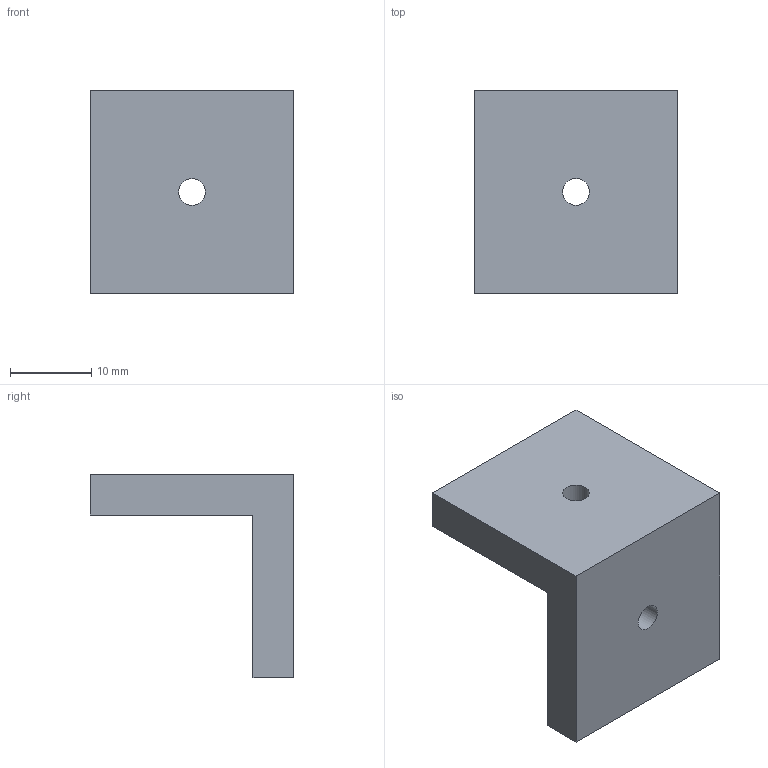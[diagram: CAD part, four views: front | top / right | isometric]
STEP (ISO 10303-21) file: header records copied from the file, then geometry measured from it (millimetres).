
FILE_DESCRIPTION(/* description */ (''),/* implementation_level */ '2;1');
FILE_NAME(/* name */ 'b.stp',/* time_stamp */ '2026-06-05T17:08:46+08:00',/* author */ ('32769'),/* organization */ (''),/* preprocessor_version */ 'ST-DEVELOPER v20',/* originating_system */ 'Autodesk Inventor 2025',/* authorisation */ '');
FILE_SCHEMA (('AUTOMOTIVE_DESIGN { 1 0 10303 214 3 1 1 }'));
Length unit declared in the file: millimetre
Products named in the file (1): b
Bounding box: 25 x 25 x 25 mm (x, y, z)
Volume: 5539.5 mm3; surface area: 3019.5 mm2
Topology: 1 solids, 1 shells, 10 faces, 24 edges, 16 vertices
Faces by surface type: plane 8, cylinder 2
Full cylindrical faces by diameter (mm): 3.3 x2
Entity records: 343 total; most frequent: CARTESIAN_POINT 51, DIRECTION 50, ORIENTED_EDGE 48, EDGE_CURVE 24, LINE 20, VECTOR 20, VERTEX_POINT 16, AXIS2_PLACEMENT_3D 15
